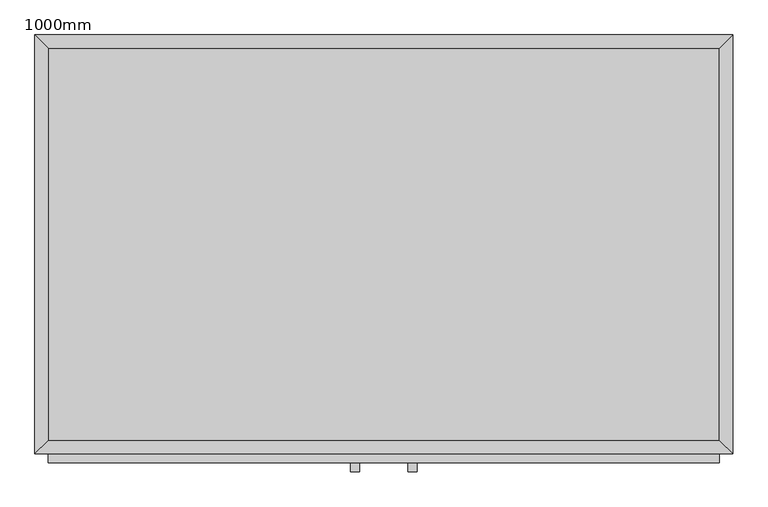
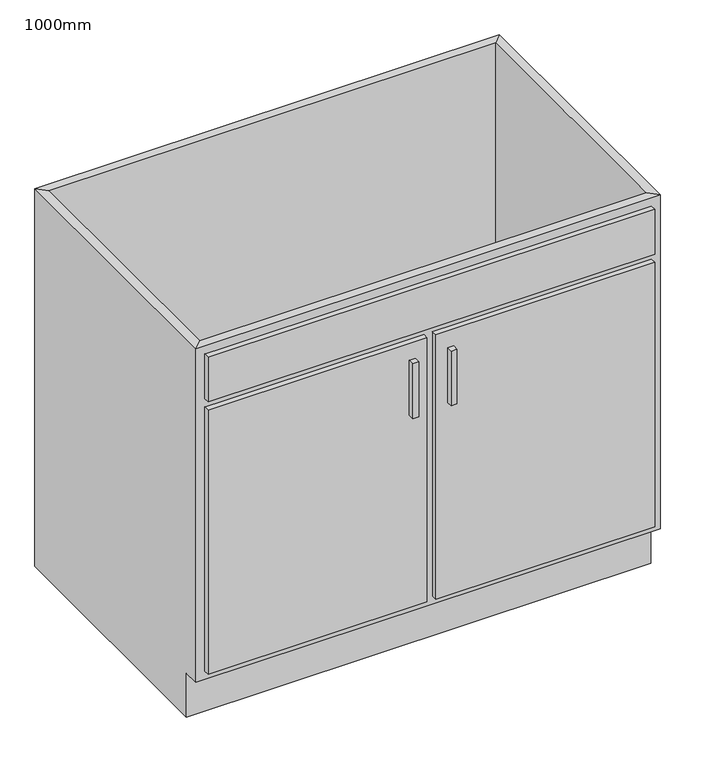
"""IFC4 building model written with IfcOpenShell, lengths in millimetres: furniture geometry, 底柜 - 双门洗涤台 : 1000mm."""

from ifc_helpers import new_model, si_unit, frame, origin, place, context, project, spatial, polyline, outline, extrude, faceted_brep, source, transform, mapped, element, save


def furniture_1000mm_50901d35(model_context):
    return source(origin(), model_context, "Body", "SolidModel", [
        faceted_brep([(499.6877049, -580.95, 860.0), (499.6877049, -580.95, 100.0), (-462.2122951, -580.95, 100.0), (-462.2122951, -580.95, 860.0), (-481.2622951, -600.0, 860.0), (518.7377049, -600.0, 860.0), (-481.2622951, -600.0, 100.0), (518.7377049, -600.0, 100.0), (-462.2122951, -565.0, 100.0), (-462.2122951, -19.05, 100.0), (-462.2122951, -19.05, 860.0), (-481.2622951, 0.0, 860.0), (-481.2622951, 0.0, 0.0), (-481.2622951, -565.0, 0.0), (-481.2622951, -565.0, 100.0), (499.6877049, -19.05, 100.0), (499.6877049, -19.05, 860.0), (518.7377049, 0.0, 860.0), (518.7377049, 0.0, 0.0), (499.6877049, -565.0, 100.0), (518.7377049, -565.0, 100.0), (518.7377049, -565.0, 0.0)], [[[0, 1, 2, 3]], [[0, 3, 4, 5]], [[5, 4, 6, 7]], [[2, 1, 7, 6]], [[3, 2, 8, 9, 10]], [[4, 3, 10, 11]], [[6, 4, 11, 12, 13, 14]], [[2, 6, 14, 8]], [[10, 9, 15, 16]], [[11, 10, 16, 17]], [[12, 11, 17, 18]], [[1, 0, 16, 15, 19]], [[0, 5, 17, 16]], [[5, 7, 20, 21, 18, 17]], [[7, 1, 19, 20]], [[8, 19, 15, 9]], [[18, 21, 13, 12]], [[13, 21, 20, 19, 8, 14]]]),
        extrude(outline(polyline([(-16.1872951, -625.4), (-28.8872951, -625.4), (-28.8872951, -612.7), (-16.1872951, -612.7), (-16.1872951, -625.4)])), frame((0.0, 0.0, 557.469895), z_axis=(0.0, 0.0, 1.0), x_axis=(1.0, 0.0, 0.0)), (0.0, 0.0, 1.0), 124.730105),
        extrude(outline(polyline([(66.3627049, -625.4), (53.6627049, -625.4), (53.6627049, -612.7), (66.3627049, -612.7), (66.3627049, -625.4)])), frame((0.0, 0.0, 557.469895), z_axis=(0.0, 0.0, 1.0), x_axis=(1.0, 0.0, 0.0)), (0.0, 0.0, 1.0), 124.730105),
        extrude(outline(polyline([(9.2127049, -612.7), (-462.2122951, -612.7), (-462.2122951, -600.0), (9.2127049, -600.0), (9.2127049, -612.7)])), frame((0.0, 0.0, 119.05), z_axis=(0.0, 0.0, 1.0), x_axis=(1.0, 0.0, 0.0)), (0.0, 0.0, 1.0), 601.25),
        extrude(outline(polyline([(499.6877049, -612.7), (28.2627049, -612.7), (28.2627049, -600.0), (499.6877049, -600.0), (499.6877049, -612.7)])), frame((0.0, 0.0, 119.05), z_axis=(0.0, 0.0, 1.0), x_axis=(1.0, 0.0, 0.0)), (0.0, 0.0, 1.0), 601.25),
        extrude(outline(polyline([(499.6877049, -612.7), (-462.2122951, -612.7), (-462.2122951, -600.0), (499.6877049, -600.0), (499.6877049, -612.7)])), frame((0.0, 0.0, 739.35), z_axis=(0.0, 0.0, 1.0), x_axis=(1.0, 0.0, 0.0)), (0.0, 0.0, 1.0), 101.6),
        extrude(outline(polyline([(499.6877049, -19.05), (499.6877049, -580.95), (-462.2122951, -580.95), (-462.2122951, -19.05), (499.6877049, -19.05)])), frame((0.0, 0.0, 100.0), z_axis=(0.0, 0.0, 1.0), x_axis=(1.0, 0.0, 0.0)), (0.0, 0.0, 1.0), 19.05),
    ])


if __name__ == "__main__":
    model = new_model("IFC4")
    model_context = context("Model", 3, world=origin())
    ifc_project = project(units=[si_unit("LENGTHUNIT", "METRE", prefix="MILLI")], contexts=[model_context])
    site = spatial("IfcSite", under=ifc_project)
    building = spatial("IfcBuilding", under=site)
    placement = place(None, origin())
    furniture_1000mm_shape = furniture_1000mm_50901d35(model_context)
    element("IfcFurniture", 1, ObjectType="底柜 - 双门洗涤台 : 1000mm", at=placement, inside=building, context=model_context, shape_type="MappedRepresentation", body=[
        mapped(furniture_1000mm_shape, transform((0.0, 0.0, 0.0), x_axis=(1.0, 0.0, 0.0), y_axis=(0.0, 1.0, 0.0), z_axis=(0.0, 0.0, 1.0))),
    ])
    save(model, "model.ifc")
